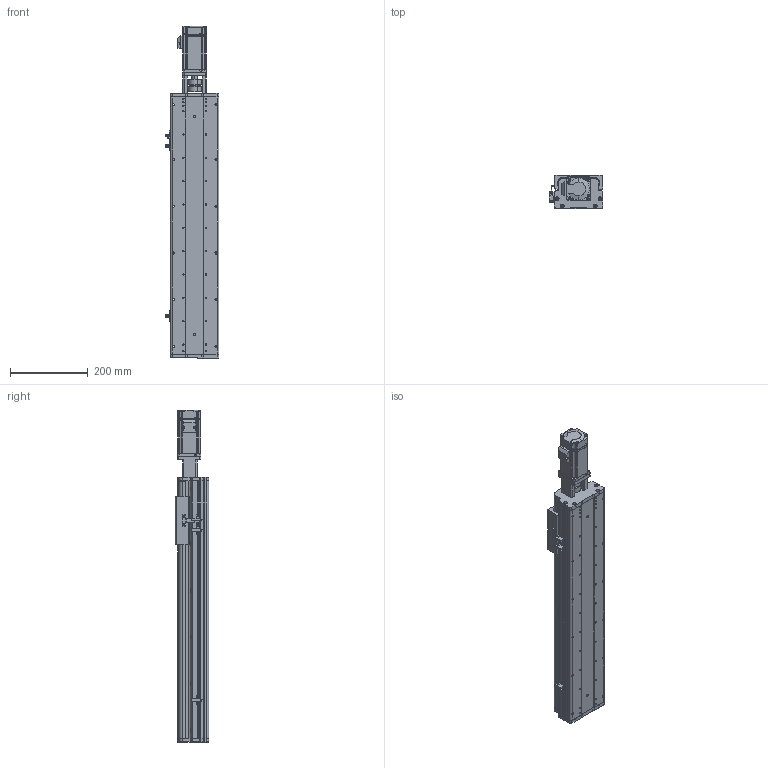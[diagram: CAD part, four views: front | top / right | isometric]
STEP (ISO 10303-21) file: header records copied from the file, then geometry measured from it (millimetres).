
FILE_DESCRIPTION (( 'STEP AP214' ), '1' );
FILE_NAME ('KSD125S-S450-MT-CM.STEP', '2017-08-07T06:40:55', ( '微软用户' ), ( '微软中国' ), 'SwSTEP 2.0', 'SolidWorks 2014', '' );
FILE_SCHEMA (( 'AUTOMOTIVE_DESIGN' ));
Length unit declared in the file: millimetre
Products named in the file (13): KSD125S-450俴最佪裝滅鳥裔; MHMD042G1CA_2_03; 100遵鎮湛假蚾啣1 ; KSD125S-450俴最佪裝菁啣; 拸萇儂釱滅袉菜; 覜茼え68遵圉猾敕; U倰嫖萇假蚾璃; U倰嫖萇EEㄜSX672; ヶ傷啣-125遵耀郪; KSD125-賑雄釱1; CS-34X32-10X14; 125-帣傷啣1; KSD125S-S450-MT-CM
Assembly tree (16 placements, depth 2):
  KSD125S-S450-MT-CM
    125-帣傷啣1
    CS-34X32-10X14
    KSD125-賑雄釱1
    ヶ傷啣-125遵耀郪
    U倰嫖萇EEㄜSX672  x3
    U倰嫖萇假蚾璃  x3
    覜茼え68遵圉猾敕
    拸萇儂釱滅袉菜
    100遵鎮湛假蚾啣1 
    MHMD042G1CA_2_03
    KSD125S-450俴最佪裝菁啣
    KSD125S-450俴最佪裝滅鳥裔
Bounding box: 138.7 x 86 x 853.5 mm (x, y, z)
Volume: 2437340.1 mm3; surface area: 815049.5 mm2
Topology: 15 solids, 18 shells, 1518 faces, 4376 edges, 2879 vertices
Faces by surface type: cylinder 766, plane 639, cone 91, bspline 22
Entity records: 53389 total; most frequent: CARTESIAN_POINT 11244, DIRECTION 7650, ORIENTED_EDGE 7260, EDGE_CURVE 3708, AXIS2_PLACEMENT_3D 2819, VERTEX_POINT 2471, LINE 2012, VECTOR 2012
